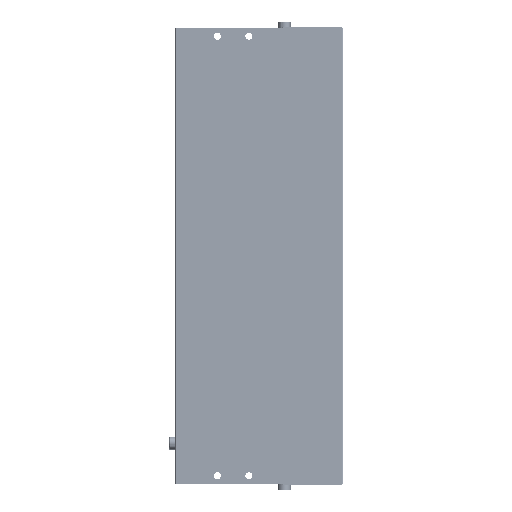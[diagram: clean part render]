
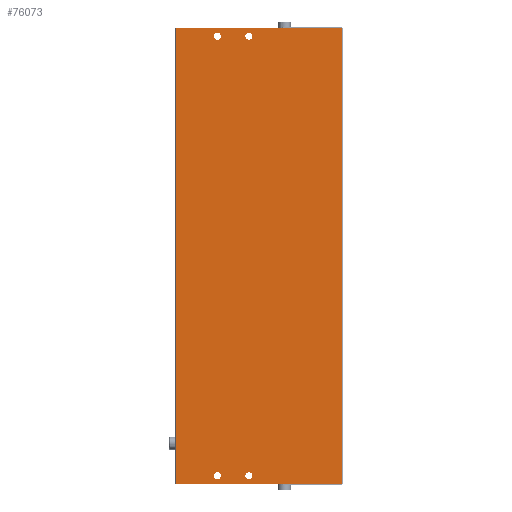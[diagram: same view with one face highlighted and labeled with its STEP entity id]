
A CAD part, front view. The second image highlights one B-rep face of the part: STEP entity #76073.
In plain terms, the highlighted planar face has unit normal (0, -1, 0).
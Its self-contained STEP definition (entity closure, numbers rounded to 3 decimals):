
#47098=DIRECTION('',(-1.,0.,0.));
#47099=VECTOR('',#47098,105.);
#47100=CARTESIAN_POINT('',(52.5,-16.9,0.));
#47101=LINE('',#47100,#47099);
#47296=DIRECTION('',(1.,0.,0.));
#47297=VECTOR('',#47296,105.);
#47298=CARTESIAN_POINT('',(-52.5,-16.9,288.));
#47299=LINE('',#47298,#47297);
#50437=DIRECTION('',(0.,0.,1.));
#50438=VECTOR('',#50437,288.);
#50439=CARTESIAN_POINT('',(-52.5,-16.9,0.));
#50440=LINE('',#50439,#50438);
#50441=CARTESIAN_POINT('',(-26.5,-16.9,283.));
#50442=DIRECTION('',(0.,1.,0.));
#50443=DIRECTION('',(0.,0.,1.));
#50444=AXIS2_PLACEMENT_3D('',#50441,#50442,#50443);
#50446=CARTESIAN_POINT('',(-26.5,-16.9,283.));
#50447=DIRECTION('',(0.,1.,0.));
#50448=DIRECTION('',(0.,0.,-1.));
#50449=AXIS2_PLACEMENT_3D('',#50446,#50447,#50448);
#50451=CARTESIAN_POINT('',(-6.5,-16.9,283.));
#50452=DIRECTION('',(0.,1.,0.));
#50453=DIRECTION('',(0.,0.,1.));
#50454=AXIS2_PLACEMENT_3D('',#50451,#50452,#50453);
#50456=CARTESIAN_POINT('',(-6.5,-16.9,283.));
#50457=DIRECTION('',(0.,1.,0.));
#50458=DIRECTION('',(0.,0.,-1.));
#50459=AXIS2_PLACEMENT_3D('',#50456,#50457,#50458);
#50461=CARTESIAN_POINT('',(-26.5,-16.9,5.));
#50462=DIRECTION('',(0.,1.,0.));
#50463=DIRECTION('',(0.,0.,-1.));
#50464=AXIS2_PLACEMENT_3D('',#50461,#50462,#50463);
#50466=CARTESIAN_POINT('',(-26.5,-16.9,5.));
#50467=DIRECTION('',(0.,1.,0.));
#50468=DIRECTION('',(0.,0.,1.));
#50469=AXIS2_PLACEMENT_3D('',#50466,#50467,#50468);
#50471=CARTESIAN_POINT('',(-6.5,-16.9,5.));
#50472=DIRECTION('',(0.,1.,0.));
#50473=DIRECTION('',(0.,0.,-1.));
#50474=AXIS2_PLACEMENT_3D('',#50471,#50472,#50473);
#50476=CARTESIAN_POINT('',(-6.5,-16.9,5.));
#50477=DIRECTION('',(0.,1.,0.));
#50478=DIRECTION('',(0.,0.,1.));
#50479=AXIS2_PLACEMENT_3D('',#50476,#50477,#50478);
#50485=DIRECTION('',(0.,0.,-1.));
#50486=VECTOR('',#50485,288.);
#50487=CARTESIAN_POINT('',(52.5,-16.9,288.));
#50488=LINE('',#50487,#50486);
#69301=CARTESIAN_POINT('',(-26.5,-16.9,280.75));
#69303=VERTEX_POINT('',#69301);
#69504=CARTESIAN_POINT('',(52.5,-16.9,0.));
#69506=VERTEX_POINT('',#69504);
#70076=CARTESIAN_POINT('',(-26.5,-16.9,2.75));
#70077=CARTESIAN_POINT('',(-26.5,-16.9,7.25));
#70078=VERTEX_POINT('',#70076);
#70079=VERTEX_POINT('',#70077);
#70551=CARTESIAN_POINT('',(-6.5,-16.9,2.75));
#70552=VERTEX_POINT('',#70551);
#70694=CARTESIAN_POINT('',(-26.5,-16.9,285.25));
#70695=VERTEX_POINT('',#70694);
#71414=CARTESIAN_POINT('',(-6.5,-16.9,7.25));
#71415=VERTEX_POINT('',#71414);
#71805=CARTESIAN_POINT('',(-6.5,-16.9,280.75));
#71806=VERTEX_POINT('',#71805);
#72249=CARTESIAN_POINT('',(-6.5,-16.9,285.25));
#72250=VERTEX_POINT('',#72249);
#72504=CARTESIAN_POINT('',(-52.5,-16.9,0.));
#72506=VERTEX_POINT('',#72504);
#73175=CARTESIAN_POINT('',(-52.5,-16.9,288.));
#73176=VERTEX_POINT('',#73175);
#73209=CARTESIAN_POINT('',(52.5,-16.9,288.));
#73210=VERTEX_POINT('',#73209);
#76037=CARTESIAN_POINT('',(-53.,-16.9,0.));
#76038=DIRECTION('',(0.,-1.,0.));
#76039=DIRECTION('',(0.,0.,-1.));
#76040=AXIS2_PLACEMENT_3D('',#76037,#76038,#76039);
#76041=PLANE('',#76040);
#76042=ORIENTED_EDGE('',*,*,#76031,.T.);
#76043=ORIENTED_EDGE('',*,*,#74126,.T.);
#76045=ORIENTED_EDGE('',*,*,#76044,.T.);
#76046=ORIENTED_EDGE('',*,*,#74004,.T.);
#76047=EDGE_LOOP('',(#76042,#76043,#76045,#76046));
#76048=FACE_OUTER_BOUND('',#76047,.F.);
#76050=ORIENTED_EDGE('',*,*,#76049,.F.);
#76052=ORIENTED_EDGE('',*,*,#76051,.F.);
#76053=EDGE_LOOP('',(#76050,#76052));
#76054=FACE_BOUND('',#76053,.F.);
#76056=ORIENTED_EDGE('',*,*,#76055,.F.);
#76058=ORIENTED_EDGE('',*,*,#76057,.F.);
#76059=EDGE_LOOP('',(#76056,#76058));
#76060=FACE_BOUND('',#76059,.F.);
#76062=ORIENTED_EDGE('',*,*,#76061,.F.);
#76064=ORIENTED_EDGE('',*,*,#76063,.F.);
#76065=EDGE_LOOP('',(#76062,#76064));
#76066=FACE_BOUND('',#76065,.F.);
#76068=ORIENTED_EDGE('',*,*,#76067,.F.);
#76070=ORIENTED_EDGE('',*,*,#76069,.F.);
#76071=EDGE_LOOP('',(#76068,#76070));
#76072=FACE_BOUND('',#76071,.F.);
#76073=ADVANCED_FACE('',(#76048,#76054,#76060,#76066,#76072),#76041,.T.);
#50445=CIRCLE('',#50444,2.25);
#50450=CIRCLE('',#50449,2.25);
#50455=CIRCLE('',#50454,2.25);
#50460=CIRCLE('',#50459,2.25);
#50465=CIRCLE('',#50464,2.25);
#50470=CIRCLE('',#50469,2.25);
#50475=CIRCLE('',#50474,2.25);
#50480=CIRCLE('',#50479,2.25);
#74004=EDGE_CURVE('',#69506,#72506,#47101,.T.);
#74126=EDGE_CURVE('',#73176,#73210,#47299,.T.);
#76031=EDGE_CURVE('',#72506,#73176,#50440,.T.);
#76044=EDGE_CURVE('',#73210,#69506,#50488,.T.);
#76049=EDGE_CURVE('',#70695,#69303,#50445,.T.);
#76051=EDGE_CURVE('',#69303,#70695,#50450,.T.);
#76055=EDGE_CURVE('',#72250,#71806,#50455,.T.);
#76057=EDGE_CURVE('',#71806,#72250,#50460,.T.);
#76061=EDGE_CURVE('',#70078,#70079,#50465,.T.);
#76063=EDGE_CURVE('',#70079,#70078,#50470,.T.);
#76067=EDGE_CURVE('',#70552,#71415,#50475,.T.);
#76069=EDGE_CURVE('',#71415,#70552,#50480,.T.);
